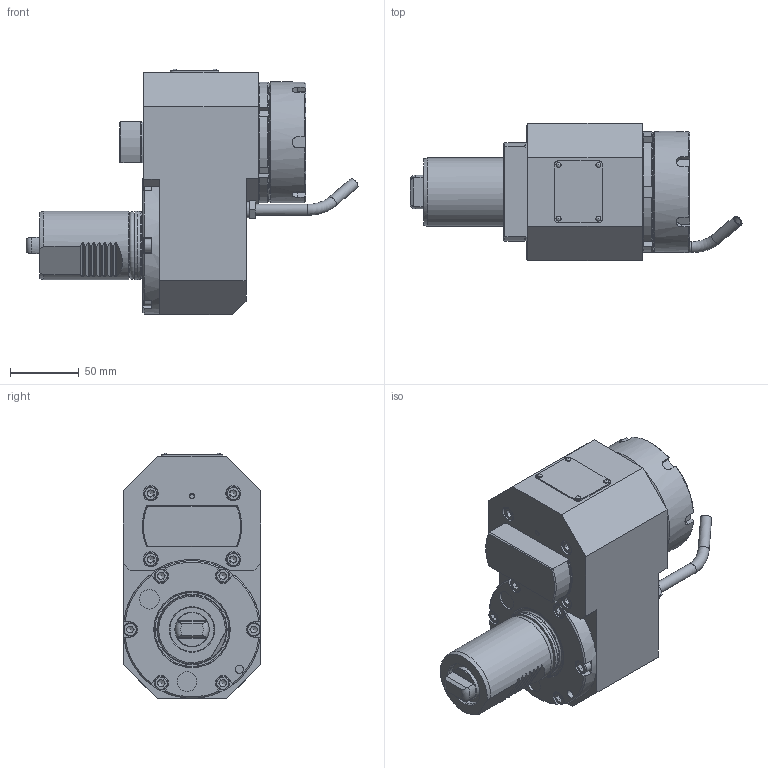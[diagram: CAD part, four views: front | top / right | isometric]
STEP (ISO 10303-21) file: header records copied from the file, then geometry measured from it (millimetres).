
FILE_DESCRIPTION(/* description */ (''),/* implementation_level */ '2;1');
FILE_NAME(/* name */ '189973',/* time_stamp */ '2020-01-15T14:10:54+01:00',/* author */ (''),/* organization */ (''),/* preprocessor_version */ 'ST-DEVELOPER v16.5',/* originating_system */ 'HiCAD 2017 2201.0 Build 268',/* authorisation */ '');
FILE_SCHEMA (('AUTOMOTIVE_DESIGN { 1 0 10303 214 1 1 1 1 }'));
Length unit declared in the file: millimetre
Products named in the file (17): Root; Teil; DIN 13-M12x1; GEWINDE; DIN 13-M78x1; Normteilgruppe _0
Assembly tree (16 placements, depth 3):
  Root
    Teil
      DIN 13-M12x1
      DIN 13-M12x1
      GEWINDE
      GEWINDE
      GEWINDE
      GEWINDE
      GEWINDE
      GEWINDE
      GEWINDE
      GEWINDE
      GEWINDE
      GEWINDE
      DIN 13-M78x1
      DIN 13-M78x1
      Normteilgruppe _0
Bounding box: 241.43 x 100 x 178.8 mm (x, y, z)
Volume: 1535959 mm3; surface area: 146570.4 mm2
Topology: 15 solids, 23 shells, 605 faces, 1520 edges, 979 vertices
Faces by surface type: plane 363, cylinder 148, cone 65, torus 25, sphere 4
Full cylindrical faces by diameter (mm): 2 x4, 2.2 x4, 3.141 x1, 4 x1, 4.773 x14, 6 x17, 6.466 x1, 6.6 x4, 8 x2, 10 x10, 10.773 x2, 11 x4, 12 x1, 14.27 x2, 25 x1, 25.5 x1, 32 x1, 43.8 x2, 48.7 x1, 50 x2, 65.5 x1, 70 x1, 75 x1, 76.5 x1, 76.92 x3, 78 x3, 79 x1, 88 x1, 100 x1
Entity records: 37074 total; most frequent: CARTESIAN_POINT 9007, DIRECTION 2978, PRESENTATION_STYLE_ASSIGNMENT 2772, OVER_RIDING_STYLED_ITEM 2757, DRAUGHTING_PRE_DEFINED_CURVE_FONT 2544, CURVE_STYLE 2544, ORIENTED_EDGE 2544, COLOUR_RGB 2515
